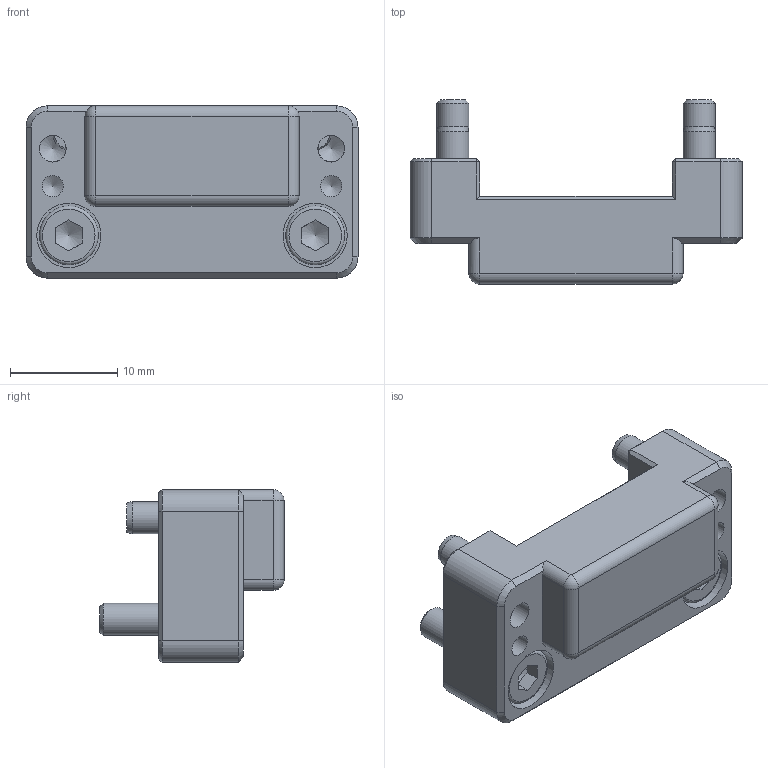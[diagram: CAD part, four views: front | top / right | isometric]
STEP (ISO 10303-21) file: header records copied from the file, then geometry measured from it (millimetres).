
FILE_DESCRIPTION(/* description */ (''),/* implementation_level */ '2;1');
FILE_NAME(/* name */ 'ZG-AP-SEK100-SHS080-U.stp',/* time_stamp */ '2024-11-13T16:07:09+01:00',/* author */ ('ysplieth'),/* organization */ (''),/* preprocessor_version */ 'ST-DEVELOPER v20',/* originating_system */ 'Autodesk Inventor 2024',/* authorisation */ '');
FILE_SCHEMA (('AUTOMOTIVE_DESIGN { 1 0 10303 214 3 1 1 }'));
Length unit declared in the file: millimetre
Products named in the file (1): Bauteil12
Bounding box: 31 x 17.2 x 16.1 mm (x, y, z)
Volume: 3532.2 mm3; surface area: 2592.7 mm2
Topology: 1 solids, 1 shells, 121 faces, 282 edges, 169 vertices
Faces by surface type: plane 63, cylinder 30, cone 20, torus 4, sphere 4
Full cylindrical faces by diameter (mm): 2 x2, 2.5 x2, 3 x4, 3.4 x2, 5.5 x2, 6 x2
Entity records: 3580 total; most frequent: CARTESIAN_POINT 624, DIRECTION 605, ORIENTED_EDGE 552, EDGE_CURVE 276, AXIS2_PLACEMENT_3D 224, VERTEX_POINT 169, LINE 157, VECTOR 157
